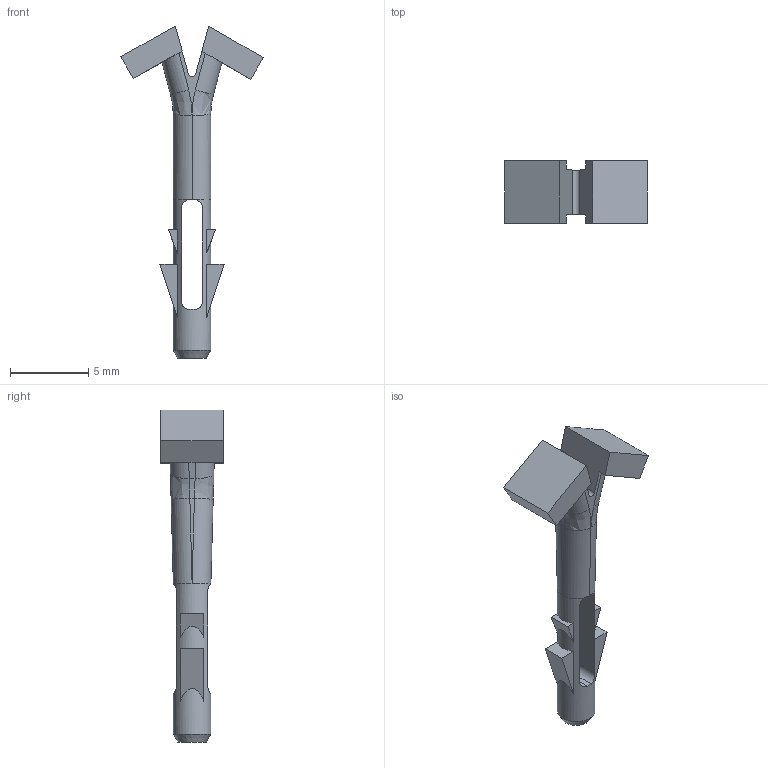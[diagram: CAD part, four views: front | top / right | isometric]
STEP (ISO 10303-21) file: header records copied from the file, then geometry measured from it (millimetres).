
FILE_DESCRIPTION(/* description */ (''),/* implementation_level */ '2;1');
FILE_NAME(/* name */ 'BEF-323_476019_A',/* time_stamp */ '2023-12-07T08:10:00+01:00',/* author */ (''),/* organization */ (''),/* preprocessor_version */ 'ST-DEVELOPER v16.5',/* originating_system */ 'HiCAD 2020 2502.6 Build 818',/* authorisation */ '');
FILE_SCHEMA (('AUTOMOTIVE_DESIGN { 1 0 10303 214 1 1 1 1 }'));
Length unit declared in the file: millimetre
Products named in the file (3): Root; 323-V-HDS_12; BEF-323
Assembly tree (2 placements, depth 2):
  Root
    323-V-HDS_12
    BEF-323
Bounding box: 9.1 x 4 x 21.2 mm (x, y, z)
Volume: 129.1 mm3; surface area: 294.8 mm2
Topology: 1 solids, 1 shells, 60 faces, 168 edges, 110 vertices
Faces by surface type: plane 39, cylinder 16, bspline 4, cone 1
Full cylindrical faces by diameter (mm): 2.4 x1
Entity records: 3620 total; most frequent: CARTESIAN_POINT 546, PRESENTATION_STYLE_ASSIGNMENT 321, COLOUR_RGB 321, DRAUGHTING_PRE_DEFINED_CURVE_FONT 320, CURVE_STYLE 320, OVER_RIDING_STYLED_ITEM 320, ORIENTED_EDGE 320, DIRECTION 278
